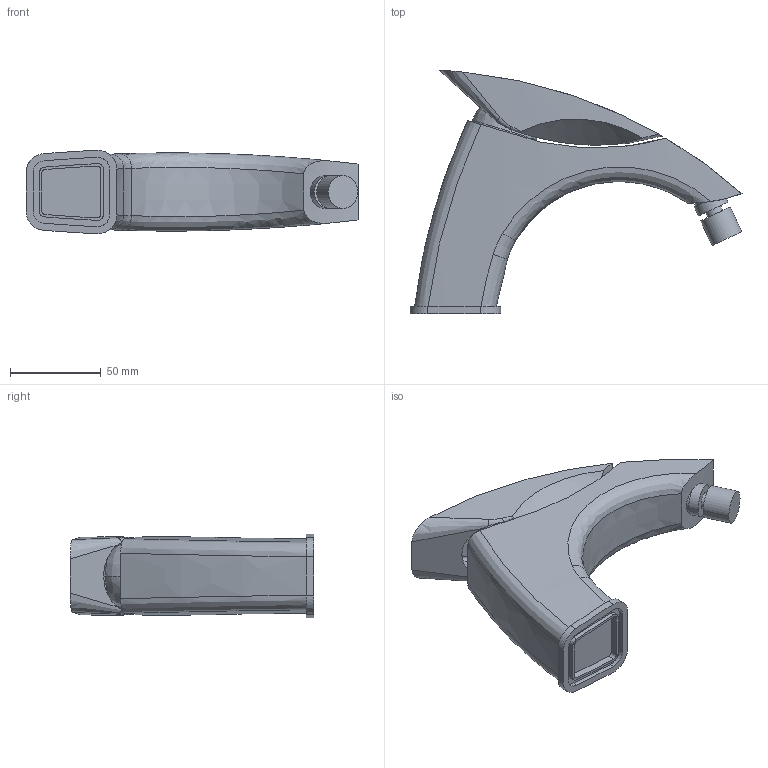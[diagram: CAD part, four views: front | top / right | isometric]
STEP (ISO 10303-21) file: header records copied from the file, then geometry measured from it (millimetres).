
FILE_DESCRIPTION(('CoCreate Modeling STEP Export'),'2;1');
FILE_NAME('F1-306.stp','2012-06-04T10:03:19',(''),(''),'CoCreate Modeling STEP processor for AP214 (Solid Model)','CoCreate Modeling 17.0 01-Apr-2010 (C) Parametric Technology GmbH','');
FILE_SCHEMA(('AUTOMOTIVE_DESIGN { 1 0 10303 214 1 1 1 1 }'));
Length unit declared in the file: millimetre
Products named in the file (4): p1.1; p1; 211; F1-306.stp
Assembly tree (3 placements, depth 3):
  F1-306.stp
    211
      p1
      p1.1
Bounding box: 182.77 x 133.92 x 46 mm (x, y, z)
Volume: 321154 mm3; surface area: 61192.5 mm2
Topology: 2 solids, 2 shells, 112 faces, 274 edges, 177 vertices
Faces by surface type: bspline 77, plane 25, cylinder 10
Entity records: 8378 total; most frequent: CARTESIAN_POINT 6160, ORIENTED_EDGE 548, EDGE_CURVE 274, DIRECTION 253, VERTEX_POINT 177, B_SPLINE_CURVE_WITH_KNOTS 124, EDGE_LOOP 123, FACE_OUTER_BOUND 112
